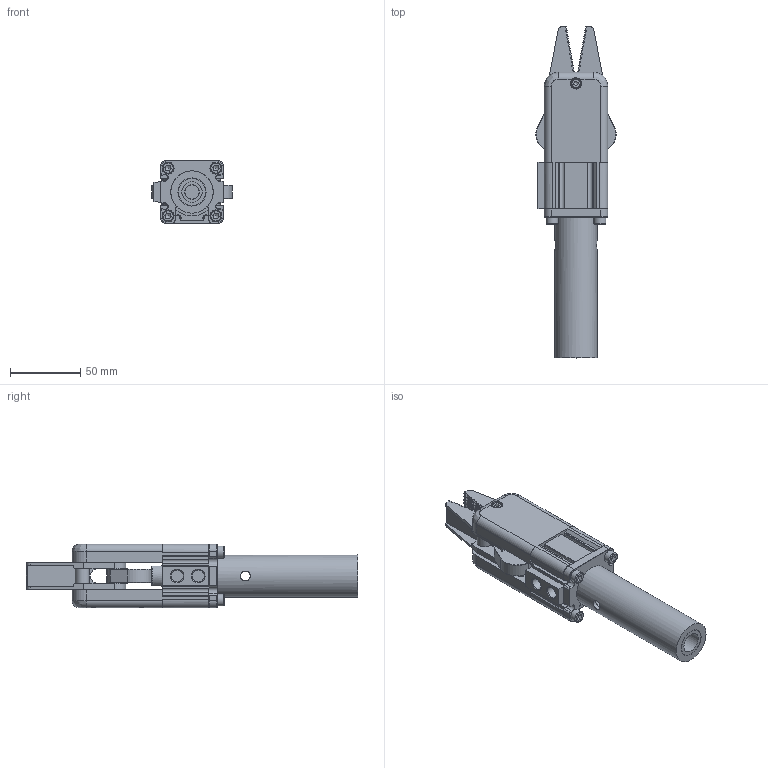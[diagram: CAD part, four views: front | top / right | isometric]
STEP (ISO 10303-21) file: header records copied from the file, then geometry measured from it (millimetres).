
FILE_DESCRIPTION(/* description */ (''),/* implementation_level */ '2;1');
FILE_NAME(/* name */ 'GRP32B-30.stp',/* time_stamp */ '2023-02-20T15:35:19+08:00',/* author */ (''),/* organization */ (''),/* preprocessor_version */ 'ST-DEVELOPER v16',/* originating_system */ 'SIEMENS PLM Software NX 10.0',/* authorisation */ '');
FILE_SCHEMA (('AUTOMOTIVE_DESIGN { 1 0 10303 214 3 1 1 1 }'));
Products named in the file (1): _model24
Bounding box: 56.95 x 235.81 x 45 mm (x, y, z)
Volume: 200272.6 mm3; surface area: 94599.9 mm2
Topology: 10 solids, 16 shells, 2049 faces, 3877 edges, 1889 vertices
Faces by surface type: plane 1782, cylinder 172, cone 86, torus 5, bspline 4
Full cylindrical faces by diameter (mm): 3.3 x1, 4 x1, 4.1 x1, 4.2 x8, 4.5 x1, 5 x4, 5.2 x4, 5.5 x4, 6 x7, 6.647 x1, 6.8 x1, 6.999 x2, 7 x5, 8 x6, 8.5 x4, 8.566 x2, 8.6 x2, 9 x8, 10 x5, 13 x1, 14 x1, 14.5 x1, 15 x2, 16 x2, 17 x12, 19.5 x2, 20 x1, 21 x1, 30 x1, 32 x1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
Entity records: 61939 total; most frequent: CARTESIAN_POINT 8436, DIRECTION 8271, ORIENTED_EDGE 7328, EDGE_CURVE 3664, LINE 3111, VECTOR 3111, AXIS2_PLACEMENT_3D 2580, EDGE_LOOP 2289
